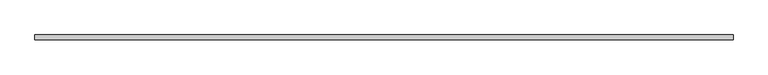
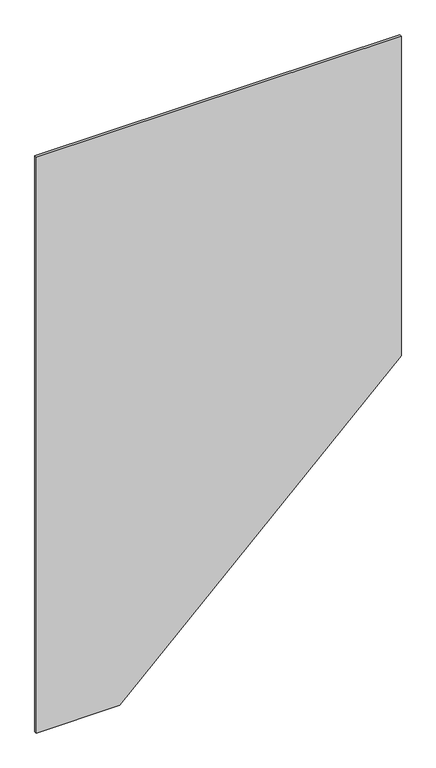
"""IFC4 building model written with IfcOpenShell, lengths in millimetres: plate geometry, 系統嵌板 : 玻璃 1.0cm."""

import ifcopenshell
import ifcopenshell.guid

model = None  # the IFC model being written
_history = None  # IfcOwnerHistory: only IFC2X3 demands one
_inside = {}  # id of a spatial element -> (the spatial element, [elements in it])
_under = {}  # id of a project, library or spatial element -> (it, [spatial elements below it])
_declared = {}  # id of a project -> (the project, [libraries it declares])
_typed = {}  # id of a type object -> (the type object, [elements of that type])
_made_of = {}  # id of a material, layer set ... -> (it, [elements and type objects made of it])


def new_model(schema):
    """Start an empty IFC model of exactly this schema.

    Asked for "IFC4X3", IfcOpenShell would pick the latest addendum, in which some entities
    have other attributes; the version numbers below select the first issue.
    IFC2X3 requires an IfcOwnerHistory on every rooted entity: one is made here for all.
    """
    global model, _history
    if schema == "IFC4X3":
        model = ifcopenshell.file(schema_version=(4, 3, 0, 0))
    else:
        model = ifcopenshell.file(schema=schema)
    _inside.clear()
    _under.clear()
    _declared.clear()
    _typed.clear()
    _made_of.clear()
    _history = None
    if model.schema == "IFC2X3":
        org = make("IfcOrganization", Name="unknown")
        user = make(
            "IfcPersonAndOrganization",
            ThePerson=make("IfcPerson", FamilyName="unknown"),
            TheOrganization=org,
        )
        app = make(
            "IfcApplication",
            ApplicationDeveloper=org,
            Version="unknown",
            ApplicationFullName="unknown",
            ApplicationIdentifier="unknown",
        )
        _history = make(
            "IfcOwnerHistory",
            OwningUser=user,
            OwningApplication=app,
            ChangeAction="ADDED",
            CreationDate=0,
        )
    return model


def make(cls, **values):
    """One entity of the class cls with the attributes given. An attribute that is None is left unset."""
    return model.create_entity(
        cls, **{name: value for name, value in values.items() if value is not None}
    )


def rooted(cls, **values):
    """An entity with a GlobalId (a new one), such as an element, a storey or a relation."""
    return make(cls, GlobalId=ifcopenshell.guid.new(), OwnerHistory=_history, **values)


def si_unit(unit_type, name, prefix=None):
    """IfcSIUnit, for example si_unit("LENGTHUNIT", "METRE", prefix="MILLI")."""
    return make("IfcSIUnit", UnitType=unit_type, Prefix=prefix, Name=name)


def assignment(units):
    """IfcUnitAssignment: the units of a project."""
    return None if units is None else make("IfcUnitAssignment", Units=units)


def point(xyz):
    """IfcCartesianPoint."""
    return None if xyz is None else make("IfcCartesianPoint", Coordinates=xyz)


def direction(xyz):
    """IfcDirection."""
    return None if xyz is None else make("IfcDirection", DirectionRatios=xyz)


def frame(location, z_axis=None, x_axis=None):
    """IfcAxis2Placement3D, a coordinate frame: its origin and axes. An axis left out is left unset."""
    return make(
        "IfcAxis2Placement3D",
        Location=point(location),
        Axis=direction(z_axis),
        RefDirection=direction(x_axis),
    )


def origin():
    """The frame at (0, 0, 0) with its axes left unset."""
    return frame((0.0, 0.0, 0.0))


def place(relative_to, where):
    """IfcLocalPlacement: puts the frame where relative to a parent placement (None: the world)."""
    return make(
        "IfcLocalPlacement", PlacementRelTo=relative_to, RelativePlacement=where
    )


def context(
    kind, dimensions, precision=None, world=None, true_north=None, identifier=None
):
    """IfcGeometricRepresentationContext, for example the 3D "Model" context."""
    return make(
        "IfcGeometricRepresentationContext",
        ContextIdentifier=identifier,
        ContextType=kind,
        CoordinateSpaceDimension=dimensions,
        Precision=precision,
        WorldCoordinateSystem=world,
        TrueNorth=true_north,
    )


def project(units=None, contexts=None):
    """IfcProject with its units and contexts."""
    return rooted(
        "IfcProject",
        Name="project",
        RepresentationContexts=contexts,
        UnitsInContext=assignment(units),
    )


def spatial(cls, under=None, at=None, **own):
    """A site, building, storey or space (cls), placed at a placement, below another one or the project."""
    s = rooted(cls, ObjectPlacement=at, **own)
    if under is not None:
        _under.setdefault(under.id(), (under, []))[1].append(s)
    return s


def polyline(points):
    """IfcPolyline through the points."""
    return make("IfcPolyline", Points=[point(p) for p in points])


def outline(outer, holes=None, kind="AREA"):
    """IfcArbitraryClosedProfileDef: a profile drawn as a closed curve; with holes, ...WithVoids."""
    if holes is None:
        return make("IfcArbitraryClosedProfileDef", ProfileType=kind, OuterCurve=outer)
    return make(
        "IfcArbitraryProfileDefWithVoids",
        ProfileType=kind,
        OuterCurve=outer,
        InnerCurves=holes,
    )


def extrude(swept, where, along, depth):
    """IfcExtrudedAreaSolid: the profile swept, set in the frame where, extruded along a direction by depth."""
    return make(
        "IfcExtrudedAreaSolid",
        SweptArea=swept,
        Position=where,
        ExtrudedDirection=direction(along),
        Depth=depth,
    )


def shape(context_of_items, identifier, shape_type, items):
    """IfcShapeRepresentation: the items that make up one representation, for example the "Body"."""
    return make(
        "IfcShapeRepresentation",
        ContextOfItems=context_of_items,
        RepresentationIdentifier=identifier,
        RepresentationType=shape_type,
        Items=items,
    )


def source(mapping_origin, context_of_items, identifier, shape_type, items):
    """IfcRepresentationMap: a shape defined once, which mapped items show again and again."""
    return make(
        "IfcRepresentationMap",
        MappingOrigin=mapping_origin,
        MappedRepresentation=shape(context_of_items, identifier, shape_type, items),
    )


def transform(
    local_origin,
    x_axis=None,
    y_axis=None,
    z_axis=None,
    scale=None,
    scale2=None,
    scale3=None,
    uniform=True,
):
    """IfcCartesianTransformationOperator3D, or its non-uniform kind. x_axis, y_axis, z_axis: its Axis1, 2, 3."""
    if uniform:
        return make(
            "IfcCartesianTransformationOperator3D",
            Axis1=direction(x_axis),
            Axis2=direction(y_axis),
            LocalOrigin=point(local_origin),
            Scale=scale,
            Axis3=direction(z_axis),
        )
    return make(
        "IfcCartesianTransformationOperator3DnonUniform",
        Axis1=direction(x_axis),
        Axis2=direction(y_axis),
        LocalOrigin=point(local_origin),
        Scale=scale,
        Axis3=direction(z_axis),
        Scale2=scale2,
        Scale3=scale3,
    )


def mapped(mapping_source, mapping_target):
    """IfcMappedItem: shows the shape of a source again, moved by a transform."""
    return make(
        "IfcMappedItem", MappingSource=mapping_source, MappingTarget=mapping_target
    )


def made_of(thing, what):
    """Note that an element or type object is made of a material, layer set ...; save() writes the relation."""
    if what is not None:
        _made_of.setdefault(what.id(), (what, []))[1].append(thing)
    return thing


def element(
    cls,
    number,
    at=None,
    inside=None,
    cuts=None,
    type_object=None,
    material=None,
    context=None,
    identifier="Body",
    shape_type=None,
    held_by="IfcProductDefinitionShape",
    body=None,
    shapes=None,
    **own,
):
    """One element of the class cls, such as IfcWall. Its Tag is "e" and its number.

    at: its placement. inside: the storey or other place that contains it. cuts: it is an
    opening in that element (IfcRelVoidsElement). A single representation is given by context,
    identifier, shape_type and body (its items); several are given by shapes. held_by: the class
    of the entity that holds the representations. save() writes the other relations.
    """
    e = rooted(cls, Tag="e%d" % number, ObjectPlacement=at, **own)
    if body is not None:
        shapes = [shape(context, identifier, shape_type, body)]
    if shapes is not None:
        e.Representation = make(held_by, Representations=shapes)
    if inside is not None:
        _inside.setdefault(inside.id(), (inside, []))[1].append(e)
    if cuts is not None:
        rooted(
            "IfcRelVoidsElement", RelatingBuildingElement=cuts, RelatedOpeningElement=e
        )
    if type_object is not None:
        _typed.setdefault(type_object.id(), (type_object, []))[1].append(e)
    return made_of(e, material)


def aggregate(whole, parts):
    """IfcRelAggregates: a whole, such as a stair, and the parts it consists of."""
    return rooted("IfcRelAggregates", RelatingObject=whole, RelatedObjects=parts)


def save(model, path):
    """Write the relations noted so far, then the file.

    IfcRelAggregates (storeys below a building ...), IfcRelContainedInSpatialStructure (elements
    in a storey), IfcRelDefinesByType, IfcRelAssociatesMaterial and IfcRelDeclares: one each for
    every whole, place, type object, material and project.
    """
    for whole, parts in _under.values():
        aggregate(whole, parts)
    for where, things in _inside.values():
        rooted(
            "IfcRelContainedInSpatialStructure",
            RelatedElements=things,
            RelatingStructure=where,
        )
    for kind, things in _typed.values():
        rooted("IfcRelDefinesByType", RelatedObjects=things, RelatingType=kind)
    for what, things in _made_of.values():
        rooted("IfcRelAssociatesMaterial", RelatedObjects=things, RelatingMaterial=what)
    for by, libraries in _declared.values():
        rooted("IfcRelDeclares", RelatingContext=by, RelatedDefinitions=libraries)
    model.write(path)


def plate_214799c7(model_context):
    return source(origin(), model_context, "Body", "SweptSolid", [
        extrude(outline(polyline([(0.0, -750.0), (0.0, -406.7688559), (1112.3399296, 750.0), (2500.0, 750.0), (2500.0, -750.0), (0.0, -750.0)])), frame((0.0, -5.0, 0.0), z_axis=(0.0, 1.0, 0.0), x_axis=(0.0, 0.0, 1.0)), (0.0, 0.0, 1.0), 10.0),
    ])


if __name__ == "__main__":
    model = new_model("IFC4")
    model_context = context("Model", 3, world=origin())
    ifc_project = project(units=[si_unit("LENGTHUNIT", "METRE", prefix="MILLI")], contexts=[model_context])
    site = spatial("IfcSite", under=ifc_project)
    building = spatial("IfcBuilding", under=site)
    placement = place(None, origin())
    plate_shape = plate_214799c7(model_context)
    element("IfcPlate", 1, ObjectType="系統嵌板 : 玻璃 1.0cm", at=placement, inside=building, context=model_context, shape_type="MappedRepresentation", body=[
        mapped(plate_shape, transform((0.0, 0.0, 0.0), x_axis=(1.0, 0.0, 0.0), y_axis=(0.0, 1.0, 0.0), z_axis=(0.0, 0.0, 1.0))),
    ])
    save(model, "model.ifc")
